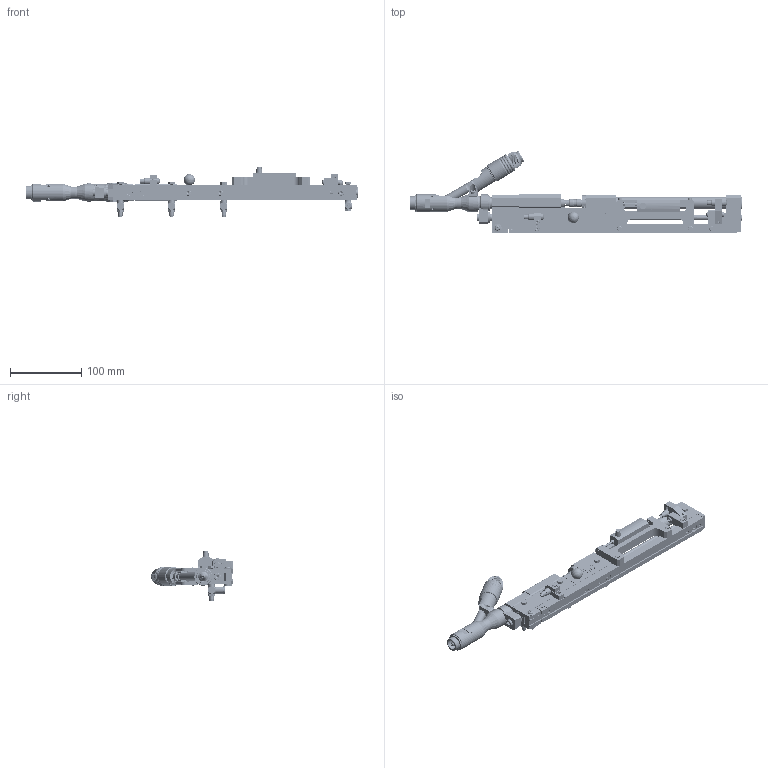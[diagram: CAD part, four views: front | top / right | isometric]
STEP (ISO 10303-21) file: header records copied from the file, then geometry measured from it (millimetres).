
FILE_DESCRIPTION(/* description */ (''),/* implementation_level */ '2;1');
FILE_NAME(/* name */ 'G:\Modelle für Marketing\3Ds Parasolid\3D_Parasolid_automatic_setting_system_EDE1601_series.x_b.ipt.stp',/* time_stamp */ '2016-07-28T11:55:10+02:00',/* author */ ('Wolf'),/* organization */ (''),/* preprocessor_version */ 'ST-DEVELOPER v15.2',/* originating_system */ 'Autodesk Inventor 2014',/* authorisation */ '');
FILE_SCHEMA (('AUTOMOTIVE_DESIGN { 1 0 10303 214 3 1 1 }'));
Products named in the file (1): 3D_Parasolid_automatic_setting_system_EDE1601_series.x_b
Bounding box: 467.4 x 115.29 x 69.7 mm (x, y, z)
Volume: 377700.9 mm3; surface area: 227175.9 mm2
Topology: 20 solids, 99 shells, 3036 faces, 7635 edges, 4957 vertices
Faces by surface type: plane 1691, cylinder 723, cone 431, torus 101, bspline 68, sphere 22
Full cylindrical faces by diameter (mm): 0.8 x2, 1 x2, 1.5 x1, 2 x1, 2.013 x2, 2.2 x1, 2.4 x1, 2.459 x8, 2.5 x2, 2.6 x6, 3 x13, 3.04 x3, 3.1 x2, 3.2 x9, 3.242 x24, 3.4 x1, 3.6 x2, 3.8 x4, 4 x15, 4.02 x1, 4.1 x2, 4.134 x21, 4.3 x2, 4.45 x2, 4.5 x9, 4.7 x2, 4.9 x1, 4.917 x2, 5 x13, 5.02 x1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
Entity records: 97017 total; most frequent: CARTESIAN_POINT 27328, DIRECTION 13605, ORIENTED_EDGE 12804, EDGE_CURVE 6402, AXIS2_PLACEMENT_3D 5189, VERTEX_POINT 4581, EDGE_LOOP 4331, LINE 3227
